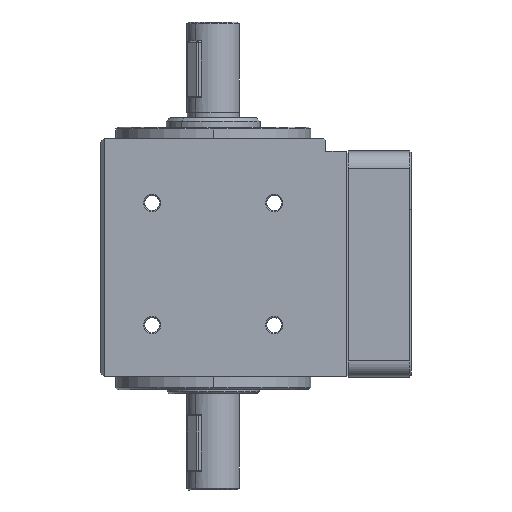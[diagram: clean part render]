
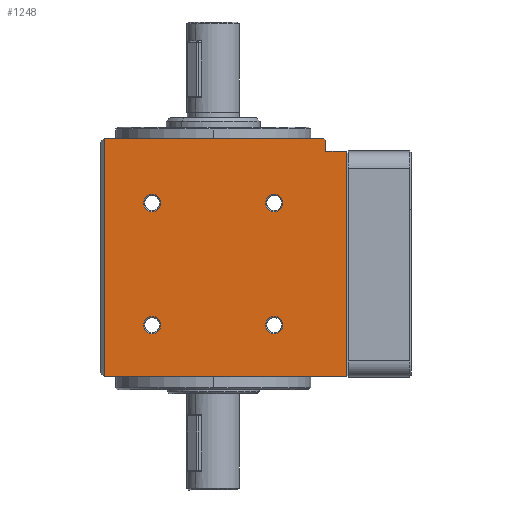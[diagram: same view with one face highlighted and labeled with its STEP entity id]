
A CAD part, left-side view. The second image highlights one B-rep face of the part: STEP entity #1248.
In plain terms, the highlighted planar face has unit normal (-1, 0, 0).
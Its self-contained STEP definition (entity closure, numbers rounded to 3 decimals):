
#78 = DIRECTION ( 'NONE',  ( 1., 0., 0. ) ) ;
#103 = DIRECTION ( 'NONE',  ( 0., 0., -1. ) ) ;
#109 = VERTEX_POINT ( 'NONE', #7463 ) ;
#130 = EDGE_LOOP ( 'NONE', ( #2394, #7986 ) ) ;
#165 = CARTESIAN_POINT ( 'NONE',  ( -30., -29.5, 63.5 ) ) ;
#212 = CIRCLE ( 'NONE', #1181, 2.3 ) ;
#247 = EDGE_LOOP ( 'NONE', ( #8058, #7771 ) ) ;
#252 = LINE ( 'NONE', #7994, #1628 ) ;
#285 = CARTESIAN_POINT ( 'NONE',  ( -30., 16.263, 46.263 ) ) ;
#342 = VERTEX_POINT ( 'NONE', #6593 ) ;
#476 = EDGE_CURVE ( 'NONE', #1379, #1308, #212, .T. ) ;
#642 = EDGE_CURVE ( 'NONE', #844, #700, #4093, .T. ) ;
#700 = VERTEX_POINT ( 'NONE', #3336 ) ;
#742 = AXIS2_PLACEMENT_3D ( 'NONE', #285, #4948, #952 ) ;
#743 = CARTESIAN_POINT ( 'NONE',  ( -30., -29.5, 63.5 ) ) ;
#746 = CARTESIAN_POINT ( 'NONE',  ( -30., -16.263, 13.737 ) ) ;
#809 = CARTESIAN_POINT ( 'NONE',  ( -30., -35.5, 63.5 ) ) ;
#844 = VERTEX_POINT ( 'NONE', #2532 ) ;
#880 = FACE_BOUND ( 'NONE', #130, .T. ) ;
#952 = DIRECTION ( 'NONE',  ( 0., 1., 0. ) ) ;
#959 = EDGE_CURVE ( 'NONE', #700, #844, #7927, .T. ) ;
#1005 = DIRECTION ( 'NONE',  ( 0., 1., 0. ) ) ;
#1015 = EDGE_CURVE ( 'NONE', #7224, #6566, #7557, .T. ) ;
#1087 = VECTOR ( 'NONE', #5460, 1000. ) ;
#1119 = VECTOR ( 'NONE', #5489, 1000. ) ;
#1128 = ORIENTED_EDGE ( 'NONE', *, *, #642, .T. ) ;
#1181 = AXIS2_PLACEMENT_3D ( 'NONE', #746, #5391, #1440 ) ;
#1228 = CARTESIAN_POINT ( 'NONE',  ( -30., 29., 63.5 ) ) ;
#1245 = CARTESIAN_POINT ( 'NONE',  ( -30., -30., 63.5 ) ) ;
#1248 = ADVANCED_FACE ( 'NONE', ( #2673, #6159, #7700, #880, #7514 ), #5077, .F. ) ;
#1308 = VERTEX_POINT ( 'NONE', #5120 ) ;
#1342 = CARTESIAN_POINT ( 'NONE',  ( -30., -30., 60. ) ) ;
#1379 = VERTEX_POINT ( 'NONE', #5857 ) ;
#1391 = VERTEX_POINT ( 'NONE', #743 ) ;
#1440 = DIRECTION ( 'NONE',  ( 0., 1., 0. ) ) ;
#1442 = CARTESIAN_POINT ( 'NONE',  ( -30., -16.263, 46.263 ) ) ;
#1498 = DIRECTION ( 'NONE',  ( 0., 0., 1. ) ) ;
#1553 = CIRCLE ( 'NONE', #2878, 2.3 ) ;
#1573 = CARTESIAN_POINT ( 'NONE',  ( -30., 16.263, 46.263 ) ) ;
#1628 = VECTOR ( 'NONE', #1005, 1000. ) ;
#1714 = CARTESIAN_POINT ( 'NONE',  ( -30., -30., 63. ) ) ;
#1723 = VECTOR ( 'NONE', #1498, 1000. ) ;
#1763 = VERTEX_POINT ( 'NONE', #3467 ) ;
#1814 = EDGE_CURVE ( 'NONE', #342, #1903, #6510, .T. ) ;
#1819 = VECTOR ( 'NONE', #1925, 1000. ) ;
#1895 = VERTEX_POINT ( 'NONE', #5458 ) ;
#1903 = VERTEX_POINT ( 'NONE', #6679 ) ;
#1925 = DIRECTION ( 'NONE',  ( 0., -1., 0. ) ) ;
#2122 = DIRECTION ( 'NONE',  ( 0., 1., 0. ) ) ;
#2139 = EDGE_LOOP ( 'NONE', ( #7076, #1128 ) ) ;
#2173 = AXIS2_PLACEMENT_3D ( 'NONE', #4107, #78, #4755 ) ;
#2249 = DIRECTION ( 'NONE',  ( 0., 1., 0. ) ) ;
#2343 = EDGE_LOOP ( 'NONE', ( #6149, #3663, #3935, #3183, #4961, #7796, #7489 ) ) ;
#2375 = EDGE_CURVE ( 'NONE', #1308, #1379, #3815, .T. ) ;
#2394 = ORIENTED_EDGE ( 'NONE', *, *, #4441, .T. ) ;
#2532 = CARTESIAN_POINT ( 'NONE',  ( -30., -16.263, 43.963 ) ) ;
#2661 = VERTEX_POINT ( 'NONE', #1228 ) ;
#2673 = FACE_BOUND ( 'NONE', #247, .T. ) ;
#2798 = CIRCLE ( 'NONE', #8224, 2.3 ) ;
#2840 = AXIS2_PLACEMENT_3D ( 'NONE', #3913, #8178, #4569 ) ;
#2872 = CARTESIAN_POINT ( 'NONE',  ( -30., 16.263, 13.737 ) ) ;
#2878 = AXIS2_PLACEMENT_3D ( 'NONE', #2872, #7298, #3545 ) ;
#3183 = ORIENTED_EDGE ( 'NONE', *, *, #8009, .T. ) ;
#3269 = VECTOR ( 'NONE', #5276, 1000. ) ;
#3336 = CARTESIAN_POINT ( 'NONE',  ( -30., -16.263, 48.563 ) ) ;
#3467 = CARTESIAN_POINT ( 'NONE',  ( -30., 16.263, 16.037 ) ) ;
#3545 = DIRECTION ( 'NONE',  ( 0., 1., 0. ) ) ;
#3599 = CIRCLE ( 'NONE', #742, 2.3 ) ;
#3663 = ORIENTED_EDGE ( 'NONE', *, *, #4286, .T. ) ;
#3690 = DIRECTION ( 'NONE',  ( 1., 0., 0. ) ) ;
#3791 = DIRECTION ( 'NONE',  ( 0., 1., 0. ) ) ;
#3815 = CIRCLE ( 'NONE', #2173, 2.3 ) ;
#3846 = ORIENTED_EDGE ( 'NONE', *, *, #2375, .T. ) ;
#3856 = CIRCLE ( 'NONE', #6616, 2.3 ) ;
#3913 = CARTESIAN_POINT ( 'NONE',  ( -30., -16.263, 46.263 ) ) ;
#3935 = ORIENTED_EDGE ( 'NONE', *, *, #6526, .F. ) ;
#4093 = CIRCLE ( 'NONE', #2840, 2.3 ) ;
#4107 = CARTESIAN_POINT ( 'NONE',  ( -30., -16.263, 13.737 ) ) ;
#4286 = EDGE_CURVE ( 'NONE', #7224, #1391, #6537, .T. ) ;
#4441 = EDGE_CURVE ( 'NONE', #1763, #1895, #3856, .T. ) ;
#4493 = VECTOR ( 'NONE', #103, 1000. ) ;
#4569 = DIRECTION ( 'NONE',  ( 0., 1., 0. ) ) ;
#4676 = ORIENTED_EDGE ( 'NONE', *, *, #476, .T. ) ;
#4755 = DIRECTION ( 'NONE',  ( 0., 1., 0. ) ) ;
#4761 = EDGE_CURVE ( 'NONE', #1895, #1763, #1553, .T. ) ;
#4948 = DIRECTION ( 'NONE',  ( 1., 0., 0. ) ) ;
#4961 = ORIENTED_EDGE ( 'NONE', *, *, #1814, .T. ) ;
#5014 = LINE ( 'NONE', #7128, #3269 ) ;
#5077 = PLANE ( 'NONE',  #7965 ) ;
#5120 = CARTESIAN_POINT ( 'NONE',  ( -30., -16.263, 16.037 ) ) ;
#5276 = DIRECTION ( 'NONE',  ( 0., 0., -1. ) ) ;
#5391 = DIRECTION ( 'NONE',  ( 1., 0., 0. ) ) ;
#5458 = CARTESIAN_POINT ( 'NONE',  ( -30., 16.263, 11.437 ) ) ;
#5460 = DIRECTION ( 'NONE',  ( 0., -1., 0. ) ) ;
#5489 = DIRECTION ( 'NONE',  ( 0., 0.707, 0.707 ) ) ;
#5542 = LINE ( 'NONE', #1245, #1819 ) ;
#5698 = EDGE_CURVE ( 'NONE', #109, #8131, #2798, .T. ) ;
#5857 = CARTESIAN_POINT ( 'NONE',  ( -30., -16.263, 11.437 ) ) ;
#6033 = VERTEX_POINT ( 'NONE', #7652 ) ;
#6050 = DIRECTION ( 'NONE',  ( 1., 0., 0. ) ) ;
#6149 = ORIENTED_EDGE ( 'NONE', *, *, #1015, .F. ) ;
#6159 = FACE_BOUND ( 'NONE', #2139, .T. ) ;
#6179 = DIRECTION ( 'NONE',  ( 1., 0., 0. ) ) ;
#6273 = EDGE_CURVE ( 'NONE', #1903, #6033, #6869, .T. ) ;
#6352 = CARTESIAN_POINT ( 'NONE',  ( -30., -30., 63.5 ) ) ;
#6384 = EDGE_LOOP ( 'NONE', ( #3846, #4676 ) ) ;
#6510 = LINE ( 'NONE', #6655, #1087 ) ;
#6526 = EDGE_CURVE ( 'NONE', #2661, #1391, #5542, .T. ) ;
#6537 = LINE ( 'NONE', #165, #1119 ) ;
#6566 = VERTEX_POINT ( 'NONE', #1342 ) ;
#6593 = CARTESIAN_POINT ( 'NONE',  ( -30., 29., 0. ) ) ;
#6616 = AXIS2_PLACEMENT_3D ( 'NONE', #7424, #3690, #7997 ) ;
#6655 = CARTESIAN_POINT ( 'NONE',  ( -30., -30., 0. ) ) ;
#6679 = CARTESIAN_POINT ( 'NONE',  ( -30., -35.5, 0. ) ) ;
#6869 = LINE ( 'NONE', #809, #1723 ) ;
#7076 = ORIENTED_EDGE ( 'NONE', *, *, #959, .T. ) ;
#7128 = CARTESIAN_POINT ( 'NONE',  ( -30., 29., 63.5 ) ) ;
#7196 = EDGE_CURVE ( 'NONE', #6033, #6566, #252, .T. ) ;
#7222 = CARTESIAN_POINT ( 'NONE',  ( -30., 16.263, 48.563 ) ) ;
#7224 = VERTEX_POINT ( 'NONE', #1714 ) ;
#7298 = DIRECTION ( 'NONE',  ( 1., 0., 0. ) ) ;
#7424 = CARTESIAN_POINT ( 'NONE',  ( -30., 16.263, 13.737 ) ) ;
#7463 = CARTESIAN_POINT ( 'NONE',  ( -30., 16.263, 43.963 ) ) ;
#7489 = ORIENTED_EDGE ( 'NONE', *, *, #7196, .T. ) ;
#7514 = FACE_OUTER_BOUND ( 'NONE', #2343, .T. ) ;
#7516 = DIRECTION ( 'NONE',  ( 1., 0., 0. ) ) ;
#7557 = LINE ( 'NONE', #7835, #4493 ) ;
#7652 = CARTESIAN_POINT ( 'NONE',  ( -30., -35.5, 60. ) ) ;
#7700 = FACE_BOUND ( 'NONE', #6384, .T. ) ;
#7771 = ORIENTED_EDGE ( 'NONE', *, *, #5698, .T. ) ;
#7784 = EDGE_CURVE ( 'NONE', #8131, #109, #3599, .T. ) ;
#7796 = ORIENTED_EDGE ( 'NONE', *, *, #6273, .T. ) ;
#7835 = CARTESIAN_POINT ( 'NONE',  ( -30., -30., 63.5 ) ) ;
#7927 = CIRCLE ( 'NONE', #8091, 2.3 ) ;
#7965 = AXIS2_PLACEMENT_3D ( 'NONE', #6352, #7516, #3791 ) ;
#7986 = ORIENTED_EDGE ( 'NONE', *, *, #4761, .T. ) ;
#7994 = CARTESIAN_POINT ( 'NONE',  ( -30., -36., 60. ) ) ;
#7997 = DIRECTION ( 'NONE',  ( 0., 1., 0. ) ) ;
#8009 = EDGE_CURVE ( 'NONE', #2661, #342, #5014, .T. ) ;
#8058 = ORIENTED_EDGE ( 'NONE', *, *, #7784, .T. ) ;
#8091 = AXIS2_PLACEMENT_3D ( 'NONE', #1442, #6050, #2122 ) ;
#8131 = VERTEX_POINT ( 'NONE', #7222 ) ;
#8178 = DIRECTION ( 'NONE',  ( 1., 0., 0. ) ) ;
#8224 = AXIS2_PLACEMENT_3D ( 'NONE', #1573, #6179, #2249 ) ;
